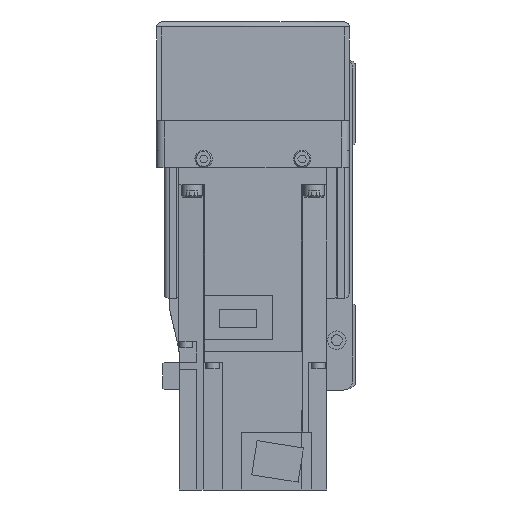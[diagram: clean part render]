
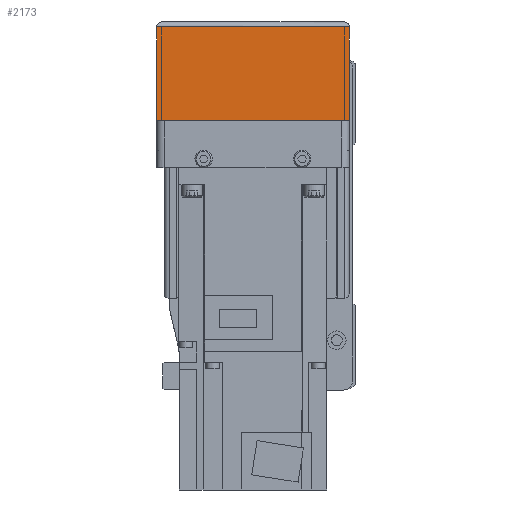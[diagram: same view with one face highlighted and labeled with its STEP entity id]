
A CAD part, left-side view. The second image highlights one B-rep face of the part: STEP entity #2173.
In plain terms, the highlighted planar face has unit normal (-1, 0, 0).
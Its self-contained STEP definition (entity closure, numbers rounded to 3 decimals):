
#2173 = ADVANCED_FACE( '', ( #4841 ), #4842, .F. );
#4841 = FACE_OUTER_BOUND( '', #8024, .T. );
#4842 = PLANE( '', #8025 );
#8024 = EDGE_LOOP( '', ( #14199, #14200, #14201, #14202 ) );
#8025 = AXIS2_PLACEMENT_3D( '', #14203, #14204, #14205 );
#14199 = ORIENTED_EDGE( '', *, *, #20317, .F. );
#14200 = ORIENTED_EDGE( '', *, *, #18471, .F. );
#14201 = ORIENTED_EDGE( '', *, *, #18386, .T. );
#14202 = ORIENTED_EDGE( '', *, *, #18291, .F. );
#14203 = CARTESIAN_POINT( '', ( -158., 36., 7. ) );
#14204 = DIRECTION( '', ( 1., 0., 0. ) );
#14205 = DIRECTION( '', ( 0., 0., -1. ) );
#18291 = EDGE_CURVE( '', #21796, #21798, #21799, .T. );
#18386 = EDGE_CURVE( '', #21959, #21798, #21965, .T. );
#18471 = EDGE_CURVE( '', #21959, #22113, #22114, .T. );
#20317 = EDGE_CURVE( '', #22113, #21796, #25041, .T. );
#21796 = VERTEX_POINT( '', #26884 );
#21798 = VERTEX_POINT( '', #26887 );
#21799 = LINE( '', #26888, #26889 );
#21959 = VERTEX_POINT( '', #27101 );
#21965 = LINE( '', #27108, #27109 );
#22113 = VERTEX_POINT( '', #27321 );
#22114 = LINE( '', #27322, #27323 );
#25041 = LINE( '', #31783, #31784 );
#26884 = CARTESIAN_POINT( '', ( -158., -39., -12.1 ) );
#26887 = CARTESIAN_POINT( '', ( -158., -39., -50. ) );
#26888 = CARTESIAN_POINT( '', ( -158., -39., -12.1 ) );
#26889 = VECTOR( '', #33950, 1000. );
#27101 = CARTESIAN_POINT( '', ( -158., 39., -50. ) );
#27108 = CARTESIAN_POINT( '', ( -158., 40., -50. ) );
#27109 = VECTOR( '', #34077, 1000. );
#27321 = CARTESIAN_POINT( '', ( -158., 39., -12.1 ) );
#27322 = CARTESIAN_POINT( '', ( -158., 39., -50. ) );
#27323 = VECTOR( '', #34194, 1000. );
#31783 = CARTESIAN_POINT( '', ( -158., 50., -12.1 ) );
#31784 = VECTOR( '', #36496, 1000. );
#33950 = DIRECTION( '', ( 0., 0., -1. ) );
#34077 = DIRECTION( '', ( 0., -1., 0. ) );
#34194 = DIRECTION( '', ( 0., 0., 1. ) );
#36496 = DIRECTION( '', ( 0., -1., 0. ) );
